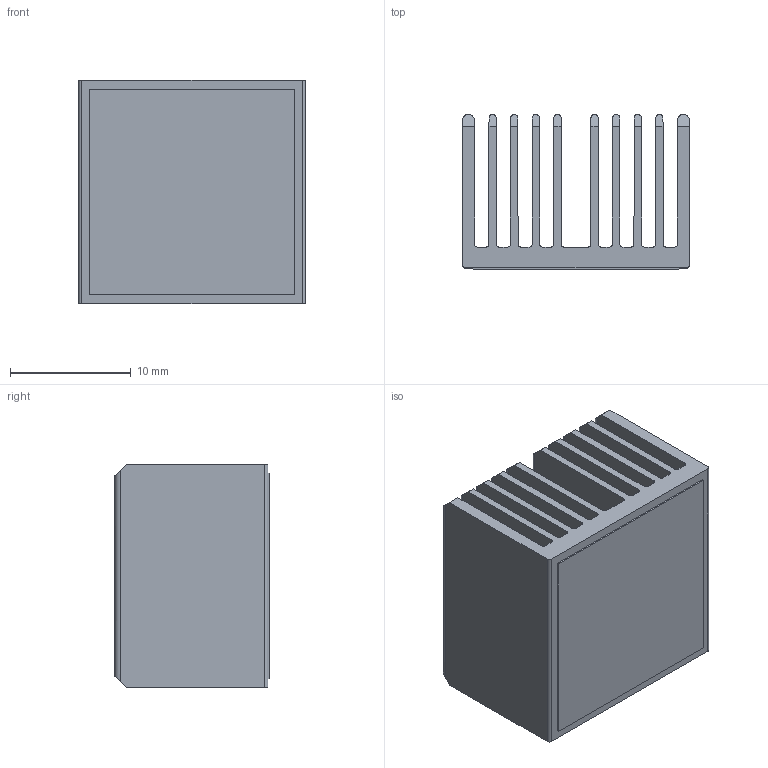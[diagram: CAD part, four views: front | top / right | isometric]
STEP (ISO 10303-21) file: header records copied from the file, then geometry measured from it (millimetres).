
FILE_DESCRIPTION (( 'STEP AP214' ), '1' );
FILE_NAME ('INL19001-13-1.7.STEP', '2023-02-20T23:56:14', ( '' ), ( '' ), 'SwSTEP 2.0', 'SolidWorks 2020', '' );
FILE_SCHEMA (( 'AUTOMOTIVE_DESIGN' ));
Length unit declared in the file: millimetre
Products named in the file (1): INL19001-13-1.7
Bounding box: 18.8 x 12.83 x 18.5 mm (x, y, z)
Volume: 2023.9 mm3; surface area: 5510.4 mm2
Topology: 2 solids, 2 shells, 88 faces, 252 edges, 168 vertices
Faces by surface type: plane 58, cylinder 30
Entity records: 3867 total; most frequent: CARTESIAN_POINT 569, ORIENTED_EDGE 504, DIRECTION 450, EDGE_CURVE 252, LINE 192, VECTOR 192, VERTEX_POINT 168, AXIS2_PLACEMENT_3D 129
